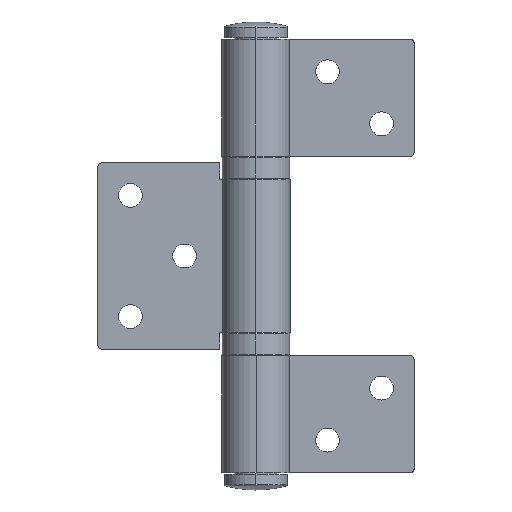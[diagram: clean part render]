
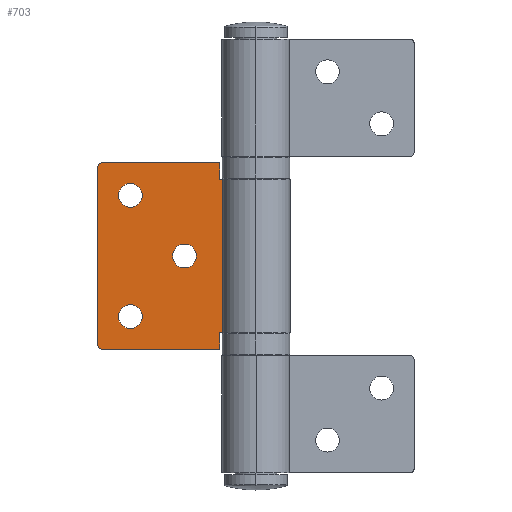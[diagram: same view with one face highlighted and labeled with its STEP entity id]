
A CAD part, top view. The second image highlights one B-rep face of the part: STEP entity #703.
In plain terms, the highlighted planar face has unit normal (0, 0, 1) as drawn and (-1, 0, 0) by its records, which use the part's own axes.
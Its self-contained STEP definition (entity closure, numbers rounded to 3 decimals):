
#26 = CARTESIAN_POINT ( 'NONE',  ( -1.5, 36.5, 42. ) ) ;
#52 = DIRECTION ( 'NONE',  ( -1., 0., 0. ) ) ;
#103 = LINE ( 'NONE', #2085, #1481 ) ;
#152 = CARTESIAN_POINT ( 'NONE',  ( -1.5, 29., 7.5 ) ) ;
#232 = VERTEX_POINT ( 'NONE', #2313 ) ;
#237 = EDGE_CURVE ( 'NONE', #2450, #1551, #2672, .T. ) ;
#280 = DIRECTION ( 'NONE',  ( 0., 1., 0. ) ) ;
#300 = EDGE_CURVE ( 'NONE', #3215, #327, #1051, .T. ) ;
#317 = DIRECTION ( 'NONE',  ( 0., 0., -1. ) ) ;
#318 = AXIS2_PLACEMENT_3D ( 'NONE', #152, #2892, #2678 ) ;
#319 = VECTOR ( 'NONE', #1249, 1000. ) ;
#324 = CARTESIAN_POINT ( 'NONE',  ( -1.5, 13.75, 21.5 ) ) ;
#327 = VERTEX_POINT ( 'NONE', #775 ) ;
#330 = DIRECTION ( 'NONE',  ( 0., 1., 0. ) ) ;
#345 = DIRECTION ( 'NONE',  ( 1., 0., 0. ) ) ;
#366 = DIRECTION ( 'NONE',  ( 0., 1., 0. ) ) ;
#383 = ORIENTED_EDGE ( 'NONE', *, *, #3171, .T. ) ;
#445 = VERTEX_POINT ( 'NONE', #2125 ) ;
#504 = DIRECTION ( 'NONE',  ( 1., 0., 0. ) ) ;
#558 = CARTESIAN_POINT ( 'NONE',  ( -1.5, 16.5, 21.5 ) ) ;
#571 = ORIENTED_EDGE ( 'NONE', *, *, #1836, .T. ) ;
#640 = VERTEX_POINT ( 'NONE', #1789 ) ;
#703 = ADVANCED_FACE ( 'NONE', ( #2496, #3038, #784, #2280 ), #2480, .F. ) ;
#759 = AXIS2_PLACEMENT_3D ( 'NONE', #2582, #345, #1863 ) ;
#775 = CARTESIAN_POINT ( 'NONE',  ( -1.5, 8.4, 39.2 ) ) ;
#782 = DIRECTION ( 'NONE',  ( 0., 1., 0. ) ) ;
#784 = FACE_BOUND ( 'NONE', #2419, .T. ) ;
#801 = EDGE_CURVE ( 'NONE', #445, #1035, #103, .T. ) ;
#803 = ORIENTED_EDGE ( 'NONE', *, *, #3000, .T. ) ;
#846 = ORIENTED_EDGE ( 'NONE', *, *, #2175, .T. ) ;
#869 = CIRCLE ( 'NONE', #3053, 2.75 ) ;
#877 = VERTEX_POINT ( 'NONE', #1322 ) ;
#897 = DIRECTION ( 'NONE',  ( 1., 0., 0. ) ) ;
#947 = VERTEX_POINT ( 'NONE', #1821 ) ;
#951 = CIRCLE ( 'NONE', #2780, 1. ) ;
#959 = LINE ( 'NONE', #2808, #2742 ) ;
#967 = VERTEX_POINT ( 'NONE', #2045 ) ;
#975 = ORIENTED_EDGE ( 'NONE', *, *, #237, .T. ) ;
#1011 = DIRECTION ( 'NONE',  ( 1., 0., 0. ) ) ;
#1035 = VERTEX_POINT ( 'NONE', #1870 ) ;
#1037 = ORIENTED_EDGE ( 'NONE', *, *, #1138, .T. ) ;
#1044 = EDGE_CURVE ( 'NONE', #1885, #1409, #951, .T. ) ;
#1051 = LINE ( 'NONE', #2753, #2413 ) ;
#1077 = DIRECTION ( 'NONE',  ( 0., -1., 0. ) ) ;
#1080 = DIRECTION ( 'NONE',  ( 0., 1., 0. ) ) ;
#1090 = VECTOR ( 'NONE', #317, 1000. ) ;
#1135 = VECTOR ( 'NONE', #1077, 1000. ) ;
#1136 = CARTESIAN_POINT ( 'NONE',  ( -1.5, 8.4, 43. ) ) ;
#1138 = EDGE_CURVE ( 'NONE', #232, #445, #1374, .T. ) ;
#1229 = AXIS2_PLACEMENT_3D ( 'NONE', #558, #504, #280 ) ;
#1232 = CARTESIAN_POINT ( 'NONE',  ( -1.5, 8.4, 43. ) ) ;
#1249 = DIRECTION ( 'NONE',  ( 0., 0., 1. ) ) ;
#1273 = VERTEX_POINT ( 'NONE', #2998 ) ;
#1276 = CIRCLE ( 'NONE', #2815, 2.75 ) ;
#1277 = ORIENTED_EDGE ( 'NONE', *, *, #300, .T. ) ;
#1283 = DIRECTION ( 'NONE',  ( 1., 0., 0. ) ) ;
#1310 = ORIENTED_EDGE ( 'NONE', *, *, #2908, .F. ) ;
#1322 = CARTESIAN_POINT ( 'NONE',  ( -1.5, 26.25, 35.5 ) ) ;
#1349 = EDGE_CURVE ( 'NONE', #1409, #2450, #3067, .T. ) ;
#1351 = CARTESIAN_POINT ( 'NONE',  ( -1.5, 29., 7.5 ) ) ;
#1374 = LINE ( 'NONE', #1136, #2565 ) ;
#1402 = DIRECTION ( 'NONE',  ( 0., 0., 1. ) ) ;
#1409 = VERTEX_POINT ( 'NONE', #26 ) ;
#1470 = EDGE_LOOP ( 'NONE', ( #383, #2942 ) ) ;
#1481 = VECTOR ( 'NONE', #1841, 1000. ) ;
#1484 = DIRECTION ( 'NONE',  ( 0., 1., 0. ) ) ;
#1540 = ORIENTED_EDGE ( 'NONE', *, *, #1349, .T. ) ;
#1551 = VERTEX_POINT ( 'NONE', #1678 ) ;
#1580 = CARTESIAN_POINT ( 'NONE',  ( -1.5, 36.5, 43. ) ) ;
#1666 = CARTESIAN_POINT ( 'NONE',  ( -1.5, 31.75, 35.5 ) ) ;
#1678 = CARTESIAN_POINT ( 'NONE',  ( -1.5, 35.5, 0. ) ) ;
#1686 = EDGE_CURVE ( 'NONE', #1551, #232, #959, .T. ) ;
#1720 = EDGE_LOOP ( 'NONE', ( #2651, #2738 ) ) ;
#1742 = CIRCLE ( 'NONE', #759, 2.75 ) ;
#1745 = LINE ( 'NONE', #1232, #319 ) ;
#1768 = CARTESIAN_POINT ( 'NONE',  ( -1.5, 7.705, 39.2 ) ) ;
#1774 = CARTESIAN_POINT ( 'NONE',  ( -1.5, 36.5, 43. ) ) ;
#1789 = CARTESIAN_POINT ( 'NONE',  ( -1.5, 26.25, 7.5 ) ) ;
#1796 = DIRECTION ( 'NONE',  ( 0., 1., 0. ) ) ;
#1807 = CARTESIAN_POINT ( 'NONE',  ( -1.5, 7.705, 43. ) ) ;
#1821 = CARTESIAN_POINT ( 'NONE',  ( -1.5, 8.4, 43. ) ) ;
#1828 = CARTESIAN_POINT ( 'NONE',  ( -1.5, 29., 35.5 ) ) ;
#1829 = AXIS2_PLACEMENT_3D ( 'NONE', #2067, #52, #1080 ) ;
#1834 = EDGE_CURVE ( 'NONE', #640, #967, #869, .T. ) ;
#1836 = EDGE_CURVE ( 'NONE', #877, #3121, #2163, .T. ) ;
#1841 = DIRECTION ( 'NONE',  ( 0., -1., 0. ) ) ;
#1852 = CARTESIAN_POINT ( 'NONE',  ( -1.5, 35.5, 43. ) ) ;
#1863 = DIRECTION ( 'NONE',  ( 0., 1., 0. ) ) ;
#1870 = CARTESIAN_POINT ( 'NONE',  ( -1.5, 7.705, 3.8 ) ) ;
#1876 = ORIENTED_EDGE ( 'NONE', *, *, #1044, .T. ) ;
#1885 = VERTEX_POINT ( 'NONE', #1852 ) ;
#1992 = ORIENTED_EDGE ( 'NONE', *, *, #3003, .F. ) ;
#2023 = DIRECTION ( 'NONE',  ( 0., -1., 0. ) ) ;
#2029 = VECTOR ( 'NONE', #2552, 1000. ) ;
#2045 = CARTESIAN_POINT ( 'NONE',  ( -1.5, 31.75, 7.5 ) ) ;
#2067 = CARTESIAN_POINT ( 'NONE',  ( -1.5, 35.5, 1. ) ) ;
#2085 = CARTESIAN_POINT ( 'NONE',  ( -1.5, 36.5, 3.8 ) ) ;
#2103 = ORIENTED_EDGE ( 'NONE', *, *, #801, .T. ) ;
#2125 = CARTESIAN_POINT ( 'NONE',  ( -1.5, 8.4, 3.8 ) ) ;
#2154 = CARTESIAN_POINT ( 'NONE',  ( -1.5, 36.5, 1. ) ) ;
#2163 = CIRCLE ( 'NONE', #2526, 2.75 ) ;
#2164 = DIRECTION ( 'NONE',  ( -1., 0., 0. ) ) ;
#2175 = EDGE_CURVE ( 'NONE', #327, #947, #1745, .T. ) ;
#2206 = VERTEX_POINT ( 'NONE', #324 ) ;
#2280 = FACE_OUTER_BOUND ( 'NONE', #2388, .T. ) ;
#2294 = EDGE_CURVE ( 'NONE', #2206, #1273, #1742, .T. ) ;
#2313 = CARTESIAN_POINT ( 'NONE',  ( -1.5, 8.4, 0. ) ) ;
#2380 = EDGE_CURVE ( 'NONE', #967, #640, #3004, .T. ) ;
#2388 = EDGE_LOOP ( 'NONE', ( #2534, #1037, #2103, #1310, #1277, #846, #1992, #1876, #1540, #975 ) ) ;
#2413 = VECTOR ( 'NONE', #1796, 1000. ) ;
#2419 = EDGE_LOOP ( 'NONE', ( #803, #571 ) ) ;
#2450 = VERTEX_POINT ( 'NONE', #2154 ) ;
#2480 = PLANE ( 'NONE',  #2487 ) ;
#2487 = AXIS2_PLACEMENT_3D ( 'NONE', #1774, #1011, #1484 ) ;
#2496 = FACE_BOUND ( 'NONE', #1470, .T. ) ;
#2524 = LINE ( 'NONE', #3051, #1135 ) ;
#2526 = AXIS2_PLACEMENT_3D ( 'NONE', #1828, #897, #366 ) ;
#2534 = ORIENTED_EDGE ( 'NONE', *, *, #1686, .T. ) ;
#2552 = DIRECTION ( 'NONE',  ( 0., 0., -1. ) ) ;
#2557 = LINE ( 'NONE', #1807, #1090 ) ;
#2565 = VECTOR ( 'NONE', #1402, 1000. ) ;
#2582 = CARTESIAN_POINT ( 'NONE',  ( -1.5, 16.5, 21.5 ) ) ;
#2651 = ORIENTED_EDGE ( 'NONE', *, *, #2380, .T. ) ;
#2672 = CIRCLE ( 'NONE', #1829, 1. ) ;
#2674 = CARTESIAN_POINT ( 'NONE',  ( -1.5, 35.5, 42. ) ) ;
#2678 = DIRECTION ( 'NONE',  ( 0., 1., 0. ) ) ;
#2738 = ORIENTED_EDGE ( 'NONE', *, *, #1834, .T. ) ;
#2742 = VECTOR ( 'NONE', #2023, 1000. ) ;
#2753 = CARTESIAN_POINT ( 'NONE',  ( -1.5, 36.5, 39.2 ) ) ;
#2780 = AXIS2_PLACEMENT_3D ( 'NONE', #2674, #2164, #2890 ) ;
#2808 = CARTESIAN_POINT ( 'NONE',  ( -1.5, 36.5, 0. ) ) ;
#2815 = AXIS2_PLACEMENT_3D ( 'NONE', #3023, #1283, #782 ) ;
#2890 = DIRECTION ( 'NONE',  ( 0., 1., 0. ) ) ;
#2892 = DIRECTION ( 'NONE',  ( 1., 0., 0. ) ) ;
#2908 = EDGE_CURVE ( 'NONE', #3215, #1035, #2557, .T. ) ;
#2942 = ORIENTED_EDGE ( 'NONE', *, *, #2294, .T. ) ;
#2998 = CARTESIAN_POINT ( 'NONE',  ( -1.5, 19.25, 21.5 ) ) ;
#3000 = EDGE_CURVE ( 'NONE', #3121, #877, #1276, .T. ) ;
#3003 = EDGE_CURVE ( 'NONE', #1885, #947, #2524, .T. ) ;
#3004 = CIRCLE ( 'NONE', #318, 2.75 ) ;
#3023 = CARTESIAN_POINT ( 'NONE',  ( -1.5, 29., 35.5 ) ) ;
#3038 = FACE_BOUND ( 'NONE', #1720, .T. ) ;
#3051 = CARTESIAN_POINT ( 'NONE',  ( -1.5, 36.5, 43. ) ) ;
#3053 = AXIS2_PLACEMENT_3D ( 'NONE', #1351, #3065, #330 ) ;
#3065 = DIRECTION ( 'NONE',  ( 1., 0., 0. ) ) ;
#3067 = LINE ( 'NONE', #1580, #2029 ) ;
#3121 = VERTEX_POINT ( 'NONE', #1666 ) ;
#3132 = CIRCLE ( 'NONE', #1229, 2.75 ) ;
#3171 = EDGE_CURVE ( 'NONE', #1273, #2206, #3132, .T. ) ;
#3215 = VERTEX_POINT ( 'NONE', #1768 ) ;
